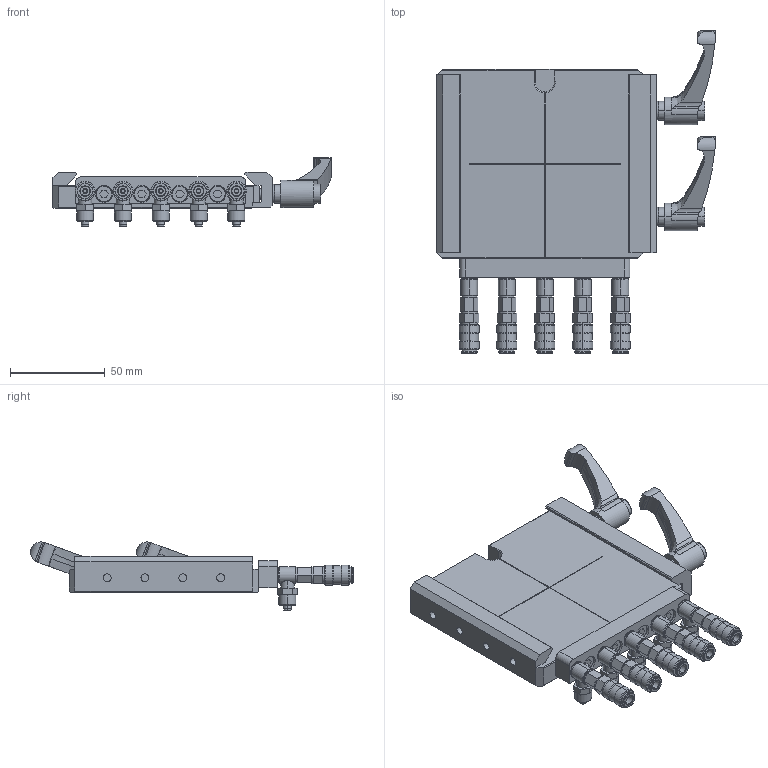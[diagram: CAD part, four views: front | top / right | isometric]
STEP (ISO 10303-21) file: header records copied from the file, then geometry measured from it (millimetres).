
FILE_DESCRIPTION (( 'STEP AP203' ), '1' );
FILE_NAME ('QCS-R100.STEP', '2024-03-20T06:18:35', ( '微软用户' ), ( '微软中国' ), 'SwSTEP 2.0', 'SolidWorks 2018', '' );
FILE_SCHEMA (( 'CONFIG_CONTROL_DESIGN' ));
Length unit declared in the file: millimetre
Products named in the file (1): QCS-R100
Bounding box: 147 x 170.47 x 35.98 mm (x, y, z)
Volume: 187229.3 mm3; surface area: 70017.1 mm2
Topology: 32 solids, 32 shells, 1627 faces, 4090 edges, 2583 vertices
Faces by surface type: plane 879, cylinder 468, cone 226, bspline 54
Entity records: 53980 total; most frequent: CARTESIAN_POINT 14176, DIRECTION 8583, ORIENTED_EDGE 8160, EDGE_CURVE 4080, AXIS2_PLACEMENT_3D 3174, VERTEX_POINT 2583, VECTOR 2235, LINE 2235
